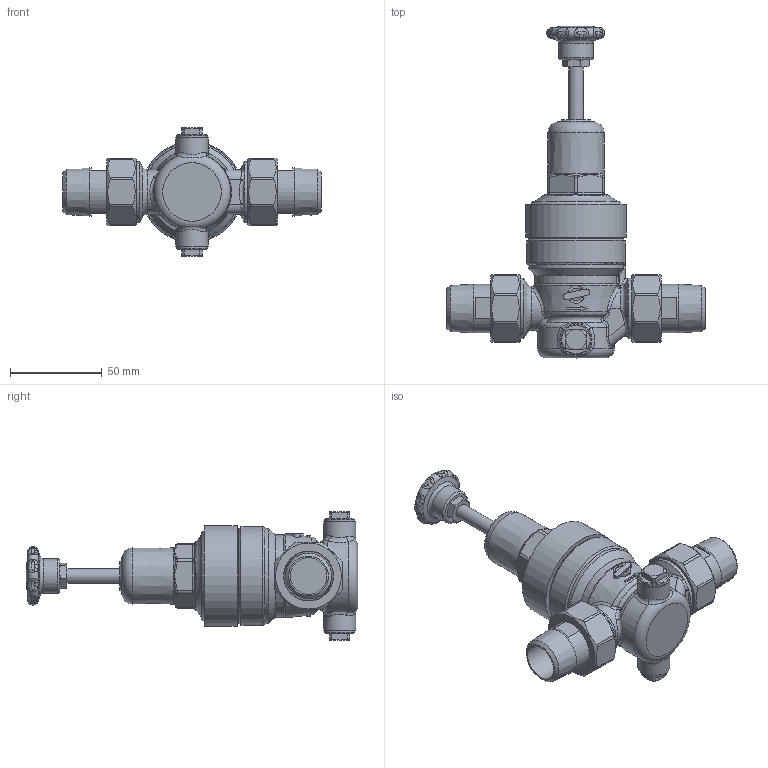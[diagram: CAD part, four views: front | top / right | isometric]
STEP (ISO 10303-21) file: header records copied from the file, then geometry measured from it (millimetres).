
FILE_DESCRIPTION(/* description */ (''),/* implementation_level */ '2;1');
FILE_NAME(/* name */ 'U:/AirCom-Produktdokumentation/Druckregler/RWA/Zeichnungen/CAD-Aircom/3D/B-RWA-06F.step',/* time_stamp */ '2022-07-04T11:14:16+02:00',/* author */ (''),/* organization */ (''),/* preprocessor_version */ 'ST-DEVELOPER v19',/* originating_system */ 'Autodesk Translation Framework v11.7.0.108',/* authorisation */ '');
FILE_SCHEMA (('AUTOMOTIVE_DESIGN { 1 0 10303 214 3 1 1 }'));
Length unit declared in the file: millimetre
Products named in the file (1): 042403_step
Bounding box: 141 x 181.3 x 70 mm (x, y, z)
Volume: 259739.6 mm3; surface area: 44152.2 mm2
Topology: 2 solids, 4 shells, 463 faces, 1143 edges, 703 vertices
Faces by surface type: bspline 139, plane 138, cylinder 101, cone 59, torus 23, sphere 3
Full cylindrical faces by diameter (mm): 3 x1, 8 x2, 8.4 x1, 10 x1, 16.5 x2, 17.5 x2, 19 x1, 20 x2, 26.6 x2, 27 x1, 27.3 x2, 33.25 x2, 50 x2, 54 x1, 55 x1
Entity records: 22265 total; most frequent: CARTESIAN_POINT 11819, ORIENTED_EDGE 2276, DIRECTION 1831, EDGE_CURVE 1138, AXIS2_PLACEMENT_3D 766, VERTEX_POINT 703, EDGE_LOOP 495, FACE_OUTER_BOUND 463
